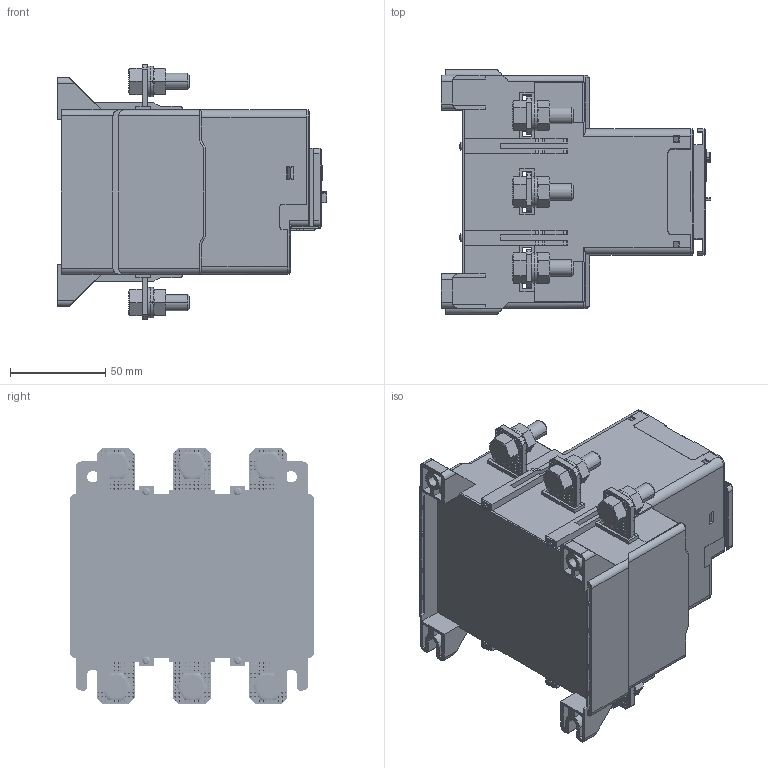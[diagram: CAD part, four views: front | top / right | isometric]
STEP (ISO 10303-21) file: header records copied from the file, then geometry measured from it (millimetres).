
FILE_DESCRIPTION((''),'2;1');
FILE_NAME('WAIXINGTU_ASM','2017-07-17T',('KYCAD023'),(''),'PRO/ENGINEER BY PARAMETRIC TECHNOLOGY CORPORATION, 2009460','PRO/ENGINEER BY PARAMETRIC TECHNOLOGY CORPORATION, 2009460','');
FILE_SCHEMA(('CONFIG_CONTROL_DESIGN'));
Products named in the file (31): 8ZTD-005-552; 8ZTD-510-553; 8ZTD-024-440; 8ZTD-256-010; 8ZTD-256-011; 8ZTD-441-034; 8ZTD-557-175; 8ZTD-321-047; 8ZTD-599-126; 8ZTD-732-187; 8ZTD-510-061-1; 8ZTD-510-061-2; 5ZTD-520-409_ASM; 8ZTD-600-320; 8ZTD-146-020; 5ZTD-648-065_ASM; 8ZTD-253-148; 5ZTD-494-037_ASM; 8ZTD-304-055; LT1; 8ZTD-315-337; NRE8-25_ASM; 8ZTD-055-114; LUODING; 8ZTD-315-1032; 8ZT-868-011; PINGDIAN; LUOSHUANG; TANDIAN; LUOMU; WAIXINGTU_ASM
Assembly tree (88 placements, depth 6):
  WAIXINGTU_ASM
    8ZTD-005-552
    8ZTD-510-553  x3
    NRE8-25_ASM
      8ZTD-024-440
      8ZTD-256-010
      8ZTD-256-011
      8ZTD-441-034
      8ZTD-557-175  x4
      8ZTD-321-047
      5ZTD-494-037_ASM
        8ZTD-599-126
        5ZTD-648-065_ASM  x3
          5ZTD-520-409_ASM
            8ZTD-732-187
            8ZTD-510-061-1  x2
            8ZTD-510-061-2
          8ZTD-600-320
          8ZTD-146-020
        8ZTD-253-148
      8ZTD-304-055
      LT1  x4
      8ZTD-315-337
    8ZTD-055-114
    LUODING  x4
    8ZTD-315-1032
    8ZT-868-011
    PINGDIAN  x6
    LUOSHUANG  x6
    TANDIAN  x6
    LUOMU  x6
Bounding box: 141.2 x 128 x 134 mm (x, y, z)
Volume: 307245.6 mm3; surface area: 358909.7 mm2
Topology: 185 solids, 193 shells, 13204 faces, 34244 edges, 22567 vertices
Faces by surface type: plane 11758, cylinder 998, extrusion 215, torus 101, cone 60, bspline 50, sphere 22
Entity records: 234042 total; most frequent: CARTESIAN_POINT 46365, ORIENTED_EDGE 40114, DIRECTION 35508, EDGE_CURVE 20061, VECTOR 18138, LINE 17923, VERTEX_POINT 13243, AXIS2_PLACEMENT_3D 8685
